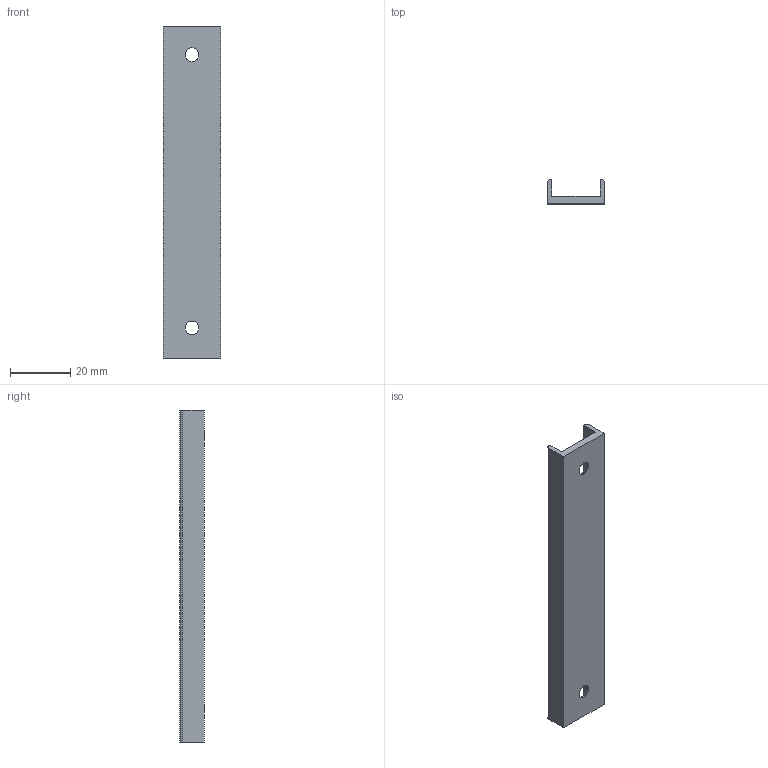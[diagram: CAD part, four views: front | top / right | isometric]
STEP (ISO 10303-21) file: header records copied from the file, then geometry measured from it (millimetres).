
FILE_DESCRIPTION(/* description */ (''),/* implementation_level */ '2;1');
FILE_NAME(/* name */ 'H:\3D_KONSTRUKCE\ROLETA+CHLEBNIK\ROLETA_RENDER\guide_mid.stp',/* time_stamp */ '2016-01-21T11:10:31+01:00',/* author */ ('uidn2323'),/* organization */ (''),/* preprocessor_version */ 'ST-DEVELOPER v15.6',/* originating_system */ 'Autodesk Inventor 2015',/* authorisation */ '');
FILE_SCHEMA (('AUTOMOTIVE_DESIGN { 1 0 10303 214 3 1 1 }'));
Length unit declared in the file: millimetre
Products named in the file (1): lyžina
Bounding box: 19 x 8 x 110 mm (x, y, z)
Volume: 6840 mm3; surface area: 7167.1 mm2
Topology: 1 solids, 1 shells, 16 faces, 40 edges, 26 vertices
Faces by surface type: plane 10, cylinder 4, cone 2
Full cylindrical faces by diameter (mm): 4.5 x2
Entity records: 490 total; most frequent: DIRECTION 80, CARTESIAN_POINT 79, ORIENTED_EDGE 72, EDGE_CURVE 36, AXIS2_PLACEMENT_3D 27, LINE 26, VECTOR 26, VERTEX_POINT 26
